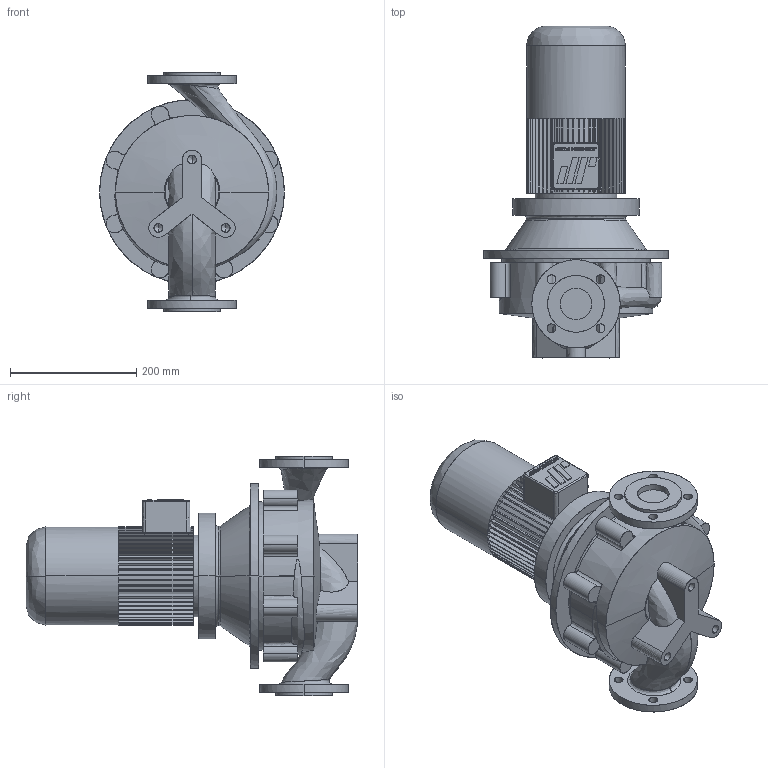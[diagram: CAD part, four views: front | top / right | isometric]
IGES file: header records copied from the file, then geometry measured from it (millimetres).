
Start section: CombiLine
Global section: file name: CLB_50-200_IEC80.igs; native system:  By UGS Corp.; preprocessor: XPlus GENERIC/IGES 3.0; author: Stageplaats; organization: Johnson Pump Water B.V.; date: 20070713.131029; units: millimetre
Bounding box: 293 x 526.5 x 380 mm (x, y, z)
Surface area: 676559.4 mm2 (no closed solid volume)
Topology: 0 solids, 0 shells, 538 faces, 3276 edges, 3270 vertices
Faces by surface type: bspline 538
